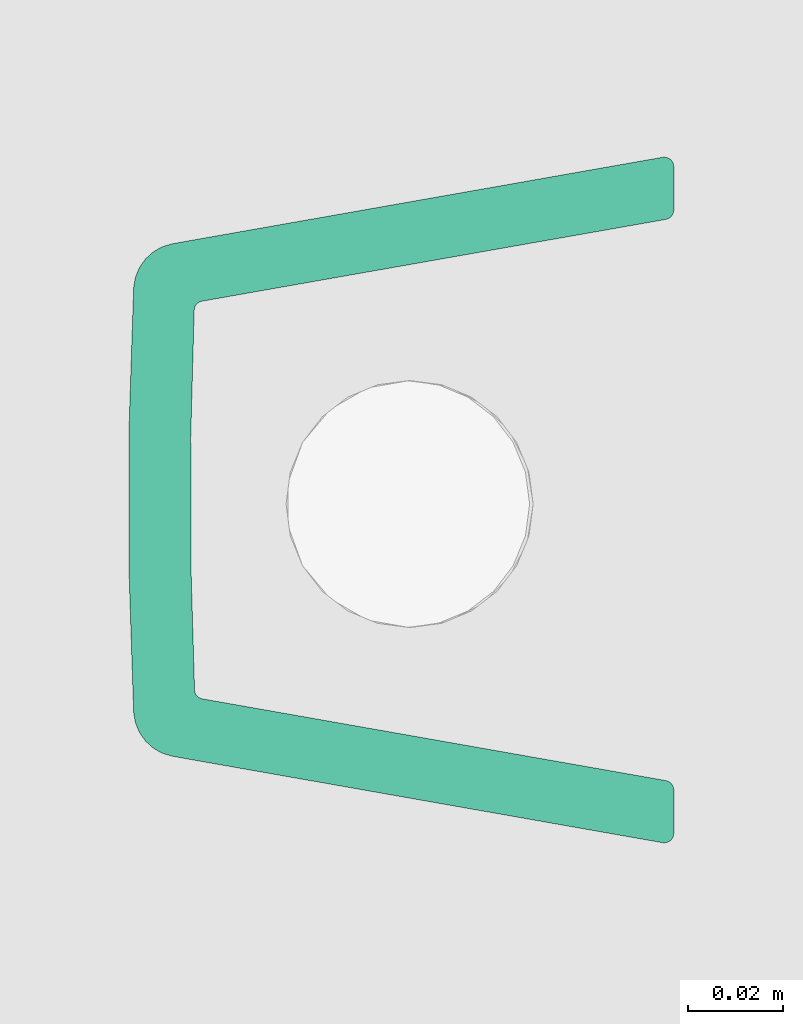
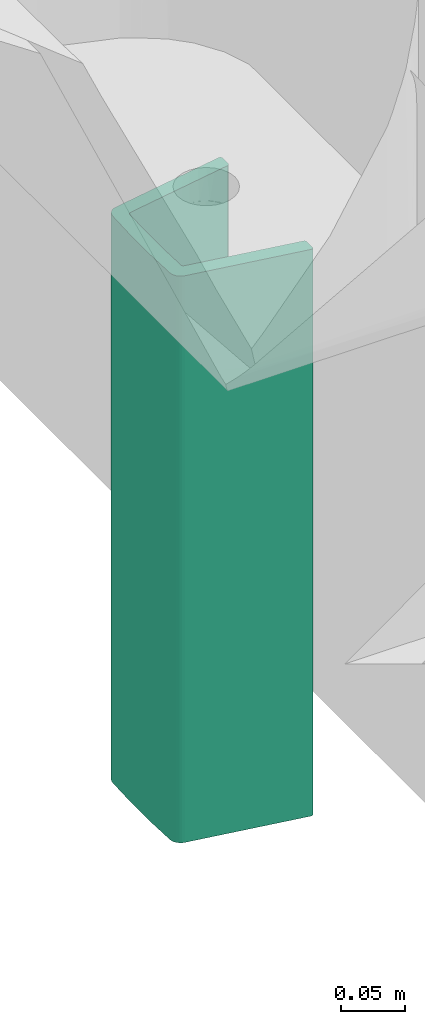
# One storey, part 66 of 155: 1 flow terminal.
"""IFC2X3 building model written with IfcOpenShell, lengths in metres."""

import ifcopenshell
import ifcopenshell.guid

model = None  # the IFC model being written
_history = None  # IfcOwnerHistory: only IFC2X3 demands one
_inside = {}  # id of a spatial element -> (the spatial element, [elements in it])
_under = {}  # id of a project, library or spatial element -> (it, [spatial elements below it])
_declared = {}  # id of a project -> (the project, [libraries it declares])
_typed = {}  # id of a type object -> (the type object, [elements of that type])
_made_of = {}  # id of a material, layer set ... -> (it, [elements and type objects made of it])


def new_model(schema):
    """Start an empty IFC model of exactly this schema.

    Asked for "IFC4X3", IfcOpenShell would pick the latest addendum, in which some entities
    have other attributes; the version numbers below select the first issue.
    IFC2X3 requires an IfcOwnerHistory on every rooted entity: one is made here for all.
    """
    global model, _history
    if schema == "IFC4X3":
        model = ifcopenshell.file(schema_version=(4, 3, 0, 0))
    else:
        model = ifcopenshell.file(schema=schema)
    _inside.clear()
    _under.clear()
    _declared.clear()
    _typed.clear()
    _made_of.clear()
    _history = None
    if model.schema == "IFC2X3":
        org = make("IfcOrganization", Name="unknown")
        user = make(
            "IfcPersonAndOrganization",
            ThePerson=make("IfcPerson", FamilyName="unknown"),
            TheOrganization=org,
        )
        app = make(
            "IfcApplication",
            ApplicationDeveloper=org,
            Version="unknown",
            ApplicationFullName="unknown",
            ApplicationIdentifier="unknown",
        )
        _history = make(
            "IfcOwnerHistory",
            OwningUser=user,
            OwningApplication=app,
            ChangeAction="ADDED",
            CreationDate=0,
        )
    return model


def make(cls, **values):
    """One entity of the class cls with the attributes given. An attribute that is None is left unset."""
    return model.create_entity(
        cls, **{name: value for name, value in values.items() if value is not None}
    )


def entity(cls, *values):
    """Any entity or typed value of the class cls, its attributes in the order of the schema. None: left unset."""
    e = model.create_entity(cls)
    for i, value in enumerate(values):
        if value is not None:
            e[i] = value
    return e


def rooted(cls, **values):
    """An entity with a GlobalId (a new one), such as an element, a storey or a relation."""
    return make(cls, GlobalId=ifcopenshell.guid.new(), OwnerHistory=_history, **values)


def si_unit(unit_type, name, prefix=None):
    """IfcSIUnit, for example si_unit("LENGTHUNIT", "METRE", prefix="MILLI")."""
    return make("IfcSIUnit", UnitType=unit_type, Prefix=prefix, Name=name)


def converted_unit(unit_type, name, factor, base, dimensions=None, offset=None):
    """IfcConversionBasedUnit, such as the inch: factor (a typed value) times the base unit."""
    return make(
        "IfcConversionBasedUnit"
        if offset is None
        else "IfcConversionBasedUnitWithOffset",
        ConversionOffset=offset,
        Dimensions=None
        if dimensions is None
        else entity("IfcDimensionalExponents", *dimensions),
        UnitType=unit_type,
        Name=name,
        ConversionFactor=make(
            "IfcMeasureWithUnit", ValueComponent=factor, UnitComponent=base
        ),
    )


def derived_unit(unit_type, elements):
    """IfcDerivedUnit: a product of units, each with its exponent."""
    return make(
        "IfcDerivedUnit",
        Elements=[
            make("IfcDerivedUnitElement", Unit=unit, Exponent=power)
            for unit, power in elements
        ],
        UnitType=unit_type,
    )


def assignment(units):
    """IfcUnitAssignment: the units of a project."""
    return None if units is None else make("IfcUnitAssignment", Units=units)


def point(xyz):
    """IfcCartesianPoint."""
    return None if xyz is None else make("IfcCartesianPoint", Coordinates=xyz)


def direction(xyz):
    """IfcDirection."""
    return None if xyz is None else make("IfcDirection", DirectionRatios=xyz)


def frame(location, z_axis=None, x_axis=None):
    """IfcAxis2Placement3D, a coordinate frame: its origin and axes. An axis left out is left unset."""
    return make(
        "IfcAxis2Placement3D",
        Location=point(location),
        Axis=direction(z_axis),
        RefDirection=direction(x_axis),
    )


def frame_2d(location, x_axis=None):
    """IfcAxis2Placement2D, a coordinate frame in the plane: its origin and x axis."""
    return make(
        "IfcAxis2Placement2D", Location=point(location), RefDirection=direction(x_axis)
    )


def origin():
    """The frame at (0, 0, 0) with its axes left unset."""
    return frame((0.0, 0.0, 0.0))


def place(relative_to, where):
    """IfcLocalPlacement: puts the frame where relative to a parent placement (None: the world)."""
    return make(
        "IfcLocalPlacement", PlacementRelTo=relative_to, RelativePlacement=where
    )


def context(
    kind, dimensions, precision=None, world=None, true_north=None, identifier=None
):
    """IfcGeometricRepresentationContext, for example the 3D "Model" context."""
    return make(
        "IfcGeometricRepresentationContext",
        ContextIdentifier=identifier,
        ContextType=kind,
        CoordinateSpaceDimension=dimensions,
        Precision=precision,
        WorldCoordinateSystem=world,
        TrueNorth=true_north,
    )


def subcontext(parent, identifier, kind, view, scale=None):
    """IfcGeometricRepresentationSubContext, for example "Body" below "Model"."""
    return make(
        "IfcGeometricRepresentationSubContext",
        ContextIdentifier=identifier,
        ContextType=kind,
        ParentContext=parent,
        TargetScale=scale,
        TargetView=view,
    )


def project(units=None, contexts=None):
    """IfcProject with its units and contexts."""
    return rooted(
        "IfcProject",
        Name="project",
        RepresentationContexts=contexts,
        UnitsInContext=assignment(units),
    )


def spatial(cls, under=None, at=None, **own):
    """A site, building, storey or space (cls), placed at a placement, below another one or the project."""
    s = rooted(cls, ObjectPlacement=at, **own)
    if under is not None:
        _under.setdefault(under.id(), (under, []))[1].append(s)
    return s


def polyline(points):
    """IfcPolyline through the points."""
    return make("IfcPolyline", Points=[point(p) for p in points])


def circle_curve(where, radius):
    """IfcCircle in the frame where."""
    return make("IfcCircle", Position=where, Radius=radius)


def parameter(value):
    """IfcParameterValue: where a trimmed curve begins or ends, as a parameter of its basis curve."""
    return model.create_entity("IfcParameterValue", value)


def trimmed(basis, trim1, trim2, sense, master):
    """IfcTrimmedCurve: the piece of a basis curve between two trims."""
    return make(
        "IfcTrimmedCurve",
        BasisCurve=basis,
        Trim1=trim1,
        Trim2=trim2,
        SenseAgreement=sense,
        MasterRepresentation=master,
    )


def segment(curve, same_sense, transition):
    """IfcCompositeCurveSegment."""
    return make(
        "IfcCompositeCurveSegment",
        Transition=transition,
        SameSense=same_sense,
        ParentCurve=curve,
    )


def composite_curve(segments, self_intersect=None):
    """IfcCompositeCurve: segments joined end to end."""
    return make("IfcCompositeCurve", Segments=segments, SelfIntersect=self_intersect)


def outline(outer, holes=None, kind="AREA"):
    """IfcArbitraryClosedProfileDef: a profile drawn as a closed curve; with holes, ...WithVoids."""
    if holes is None:
        return make("IfcArbitraryClosedProfileDef", ProfileType=kind, OuterCurve=outer)
    return make(
        "IfcArbitraryProfileDefWithVoids",
        ProfileType=kind,
        OuterCurve=outer,
        InnerCurves=holes,
    )


def extrude(swept, where, along, depth):
    """IfcExtrudedAreaSolid: the profile swept, set in the frame where, extruded along a direction by depth."""
    return make(
        "IfcExtrudedAreaSolid",
        SweptArea=swept,
        Position=where,
        ExtrudedDirection=direction(along),
        Depth=depth,
    )


def shape(context_of_items, identifier, shape_type, items):
    """IfcShapeRepresentation: the items that make up one representation, for example the "Body"."""
    return make(
        "IfcShapeRepresentation",
        ContextOfItems=context_of_items,
        RepresentationIdentifier=identifier,
        RepresentationType=shape_type,
        Items=items,
    )


def source(mapping_origin, context_of_items, identifier, shape_type, items):
    """IfcRepresentationMap: a shape defined once, which mapped items show again and again."""
    return make(
        "IfcRepresentationMap",
        MappingOrigin=mapping_origin,
        MappedRepresentation=shape(context_of_items, identifier, shape_type, items),
    )


def transform(
    local_origin,
    x_axis=None,
    y_axis=None,
    z_axis=None,
    scale=None,
    scale2=None,
    scale3=None,
    uniform=True,
):
    """IfcCartesianTransformationOperator3D, or its non-uniform kind. x_axis, y_axis, z_axis: its Axis1, 2, 3."""
    if uniform:
        return make(
            "IfcCartesianTransformationOperator3D",
            Axis1=direction(x_axis),
            Axis2=direction(y_axis),
            LocalOrigin=point(local_origin),
            Scale=scale,
            Axis3=direction(z_axis),
        )
    return make(
        "IfcCartesianTransformationOperator3DnonUniform",
        Axis1=direction(x_axis),
        Axis2=direction(y_axis),
        LocalOrigin=point(local_origin),
        Scale=scale,
        Axis3=direction(z_axis),
        Scale2=scale2,
        Scale3=scale3,
    )


def mapped(mapping_source, mapping_target):
    """IfcMappedItem: shows the shape of a source again, moved by a transform."""
    return make(
        "IfcMappedItem", MappingSource=mapping_source, MappingTarget=mapping_target
    )


def material(Name=None, Category=None):
    """IfcMaterial."""
    return make("IfcMaterial", Name=Name, Category=Category)


def made_of(thing, what):
    """Note that an element or type object is made of a material, layer set ...; save() writes the relation."""
    if what is not None:
        _made_of.setdefault(what.id(), (what, []))[1].append(thing)
    return thing


def element(
    cls,
    number,
    at=None,
    inside=None,
    cuts=None,
    type_object=None,
    material=None,
    context=None,
    identifier="Body",
    shape_type=None,
    held_by="IfcProductDefinitionShape",
    body=None,
    shapes=None,
    **own,
):
    """One element of the class cls, such as IfcWall. Its Tag is "e" and its number.

    at: its placement. inside: the storey or other place that contains it. cuts: it is an
    opening in that element (IfcRelVoidsElement). A single representation is given by context,
    identifier, shape_type and body (its items); several are given by shapes. held_by: the class
    of the entity that holds the representations. save() writes the other relations.
    """
    e = rooted(cls, Tag="e%d" % number, ObjectPlacement=at, **own)
    if body is not None:
        shapes = [shape(context, identifier, shape_type, body)]
    if shapes is not None:
        e.Representation = make(held_by, Representations=shapes)
    if inside is not None:
        _inside.setdefault(inside.id(), (inside, []))[1].append(e)
    if cuts is not None:
        rooted(
            "IfcRelVoidsElement", RelatingBuildingElement=cuts, RelatedOpeningElement=e
        )
    if type_object is not None:
        _typed.setdefault(type_object.id(), (type_object, []))[1].append(e)
    return made_of(e, material)


def aggregate(whole, parts):
    """IfcRelAggregates: a whole, such as a stair, and the parts it consists of."""
    return rooted("IfcRelAggregates", RelatingObject=whole, RelatedObjects=parts)


def save(model, path):
    """Write the relations noted so far, then the file.

    IfcRelAggregates (storeys below a building ...), IfcRelContainedInSpatialStructure (elements
    in a storey), IfcRelDefinesByType, IfcRelAssociatesMaterial and IfcRelDeclares: one each for
    every whole, place, type object, material and project.
    """
    for whole, parts in _under.values():
        aggregate(whole, parts)
    for where, things in _inside.values():
        rooted(
            "IfcRelContainedInSpatialStructure",
            RelatedElements=things,
            RelatingStructure=where,
        )
    for kind, things in _typed.values():
        rooted("IfcRelDefinesByType", RelatedObjects=things, RelatingType=kind)
    for what, things in _made_of.values():
        rooted("IfcRelAssociatesMaterial", RelatedObjects=things, RelatingMaterial=what)
    for by, libraries in _declared.values():
        rooted("IfcRelDeclares", RelatingContext=by, RelatedDefinitions=libraries)
    model.write(path)


model = new_model("IFC2X3")

# Units and contexts
model_context = context("Model", 3, precision=1e-05, world=origin(), true_north=direction((6.12303176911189e-17, 1.0)))
body_context = subcontext(model_context, "Body", "Model", "MODEL_VIEW")
ifc_project = project(units=[si_unit("LENGTHUNIT", "METRE"), si_unit("AREAUNIT", "SQUARE_METRE"), si_unit("VOLUMEUNIT", "CUBIC_METRE"), converted_unit("PLANEANGLEUNIT", "DEGREE", entity("IfcRatioMeasure", 0.0174532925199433), si_unit("PLANEANGLEUNIT", "RADIAN"), dimensions=[0, 0, 0, 0, 0, 0, 0]), si_unit("MASSUNIT", "GRAM", prefix="KILO"), derived_unit("MASSDENSITYUNIT", [(si_unit("MASSUNIT", "GRAM", prefix="KILO"), 1), (si_unit("LENGTHUNIT", "METRE"), -3)]), si_unit("TIMEUNIT", "SECOND"), si_unit("FREQUENCYUNIT", "HERTZ"), si_unit("THERMODYNAMICTEMPERATUREUNIT", "DEGREE_CELSIUS"), derived_unit("THERMALTRANSMITTANCEUNIT", [(si_unit("MASSUNIT", "GRAM", prefix="KILO"), 1), (si_unit("THERMODYNAMICTEMPERATUREUNIT", "KELVIN"), -1), (si_unit("TIMEUNIT", "SECOND"), -3)]), derived_unit("VOLUMETRICFLOWRATEUNIT", [(si_unit("LENGTHUNIT", "METRE"), 3), (si_unit("TIMEUNIT", "SECOND"), -1)]), si_unit("ELECTRICCURRENTUNIT", "AMPERE"), si_unit("ELECTRICVOLTAGEUNIT", "VOLT"), si_unit("POWERUNIT", "WATT"), si_unit("FORCEUNIT", "NEWTON", prefix="KILO"), si_unit("ILLUMINANCEUNIT", "LUX"), si_unit("LUMINOUSFLUXUNIT", "LUMEN"), si_unit("LUMINOUSINTENSITYUNIT", "CANDELA"), derived_unit("USERDEFINED", [(si_unit("MASSUNIT", "GRAM", prefix="KILO"), -1), (si_unit("LENGTHUNIT", "METRE"), -2), (si_unit("TIMEUNIT", "SECOND"), 3), (si_unit("LUMINOUSFLUXUNIT", "LUMEN"), 1)]), derived_unit("LINEARVELOCITYUNIT", [(si_unit("LENGTHUNIT", "METRE"), 1), (si_unit("TIMEUNIT", "SECOND"), -1)]), si_unit("PRESSUREUNIT", "PASCAL"), derived_unit("USERDEFINED", [(si_unit("LENGTHUNIT", "METRE"), -2), (si_unit("MASSUNIT", "GRAM", prefix="KILO"), 1), (si_unit("TIMEUNIT", "SECOND"), -2)])], contexts=[model_context])

# Site, building, storey
site_placement = place(None, frame((26.9889013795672, -17.5624287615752, 0.0)))
site = spatial("IfcSite", under=ifc_project, at=site_placement, Name="Default", CompositionType="ELEMENT")
building_placement = place(site_placement, origin())
building = spatial("IfcBuilding", under=site, at=building_placement, Name="C. C. L. Monsenhor Antônio Sampaio", CompositionType="ELEMENT")
storey_placement = place(building_placement, frame((0.0, 0.0, 1.19999999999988)))
storey = spatial("IfcBuildingStorey", under=building, at=storey_placement, Name="Nível 1.2", CompositionType="ELEMENT", Elevation=1.19999999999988)

# Flow terminal
ifc_material = material(Name="Deca GE17 Branco Gelo Cerâmica")
shared_shape = source(origin(), body_context, "Body", "SweptSolid", [
    extrude(outline(composite_curve([segment(polyline([(-0.0623240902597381, -0.0622576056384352), (0.0424051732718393, -0.0622576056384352)]), True, "CONTINUOUS"), segment(trimmed(circle_curve(frame_2d((0.0424051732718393, -0.0523159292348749), x_axis=(0.173619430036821, 0.984812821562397)), 0.00994167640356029), [parameter(189.998327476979)], [parameter(267.162813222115)], True, "PARAMETER"), True, "CONTINUOUS"), segment(trimmed(circle_curve(frame_2d((-0.827406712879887, 0.145867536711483), x_axis=(0.173619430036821, 0.984812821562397)), 0.902045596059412), [parameter(267.162813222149)], [parameter(272.837186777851)], True, "PARAMETER"), True, "CONTINUOUS"), segment(trimmed(circle_curve(frame_2d((0.0577383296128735, 0.0346575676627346), x_axis=(-0.173619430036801, -0.9848128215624)), 0.00994167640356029), [parameter(92.8371867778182)], [parameter(170.001672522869)], True, "PARAMETER"), True, "CONTINUOUS"), segment(polyline([(0.0611380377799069, 0.0439998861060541), (-0.0372773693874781, 0.0798136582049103)]), True, "CONTINUOUS"), segment(trimmed(circle_curve(frame_2d((-0.0379612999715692, 0.0779342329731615), x_axis=(-0.173619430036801, -0.9848128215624)), 0.00200000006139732), [parameter(170.001672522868)], [parameter(270.000000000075)], True, "PARAMETER"), True, "CONTINUOUS"), segment(polyline([(-0.0399309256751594, 0.0782814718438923), (-0.0415175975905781, 0.0692814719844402)]), True, "CONTINUOUS"), segment(trimmed(circle_curve(frame_2d((-0.039547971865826, 0.0689342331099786), x_axis=(-0.173619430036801, -0.9848128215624)), 0.00200000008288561), [parameter(270.000000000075)], [parameter(350.001672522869)], True, "PARAMETER"), True, "CONTINUOUS"), segment(polyline([(-0.0402319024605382, 0.0670548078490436), (0.0528421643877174, 0.033184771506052)]), True, "CONTINUOUS"), segment(trimmed(circle_curve(frame_2d((0.0521561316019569, 0.0312797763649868), x_axis=(0.173619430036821, 0.984812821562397)), 0.00202475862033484), [parameter(272.473932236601)], [parameter(350.193206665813)], True, "PARAMETER"), False, "CONTINUOUS"), segment(trimmed(circle_curve(frame_2d((-0.884323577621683, 0.154975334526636), x_axis=(0.173619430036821, 0.984812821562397)), 0.946638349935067), [parameter(267.636762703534)], [parameter(272.473932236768)], True, "PARAMETER"), False, "CONTINUOUS"), segment(trimmed(circle_curve(frame_2d((0.0384006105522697, -0.0472417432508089), x_axis=(0.173619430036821, 0.984812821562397)), 0.0020158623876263), [parameter(189.998327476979)], [parameter(267.637247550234)], True, "PARAMETER"), False, "CONTINUOUS"), segment(polyline([(0.0384006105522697, -0.0492576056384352), (-0.0607374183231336, -0.0492576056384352)]), True, "CONTINUOUS"), segment(trimmed(circle_curve(frame_2d((-0.0607374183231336, -0.0512576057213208), x_axis=(0.173619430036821, 0.984812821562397)), 0.00200000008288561), [parameter(9.99832747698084)], [parameter(89.9999999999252)], True, "PARAMETER"), True, "CONTINUOUS"), segment(polyline([(-0.0627070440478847, -0.050910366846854), (-0.0642937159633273, -0.0599103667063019)]), True, "CONTINUOUS"), segment(trimmed(circle_curve(frame_2d((-0.0623240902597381, -0.0602576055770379), x_axis=(0.173619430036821, 0.984812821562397)), 0.00200000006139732), [parameter(89.9999999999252)], [parameter(189.99832747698)], True, "PARAMETER"), True, "CONTINUOUS")], self_intersect=False)), frame((1.6614957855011e-06, 0.0, 0.0529156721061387), z_axis=(0.0, 1.0, 0.0), x_axis=(0.173619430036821, 0.0, 0.984812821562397)), (0.0, 0.0, 1.0), 0.539318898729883),
])
flow_terminal_placement = place(storey_placement, frame((3.64574152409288, -27.9022134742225, -0.399999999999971), z_axis=(-1.0, 0.0, 0.0), x_axis=(0.0, -1.0, 0.0)))
element("IfcFlowTerminal", 1, at=flow_terminal_placement, inside=storey, material=ifc_material, Name="Deca_Shared_Coluna para Tanque_TQ.03:CT.25_Branco Gelo GE17", ObjectType="CT.25_Branco Gelo GE17", context=body_context, shape_type="MappedRepresentation", body=[
    mapped(shared_shape, transform((0.0, 0.0, 0.0), scale=1.0)),
])

save(model, "model.ifc")
